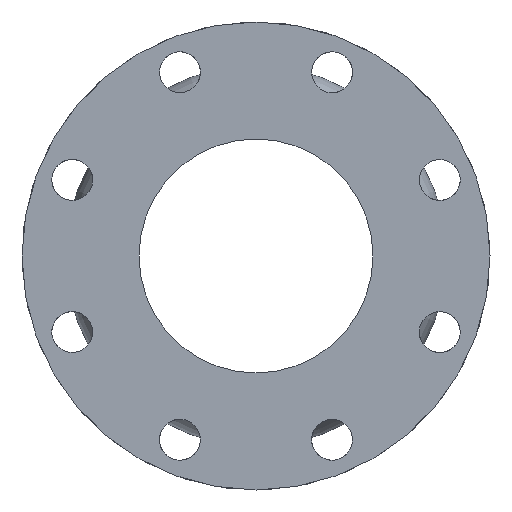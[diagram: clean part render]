
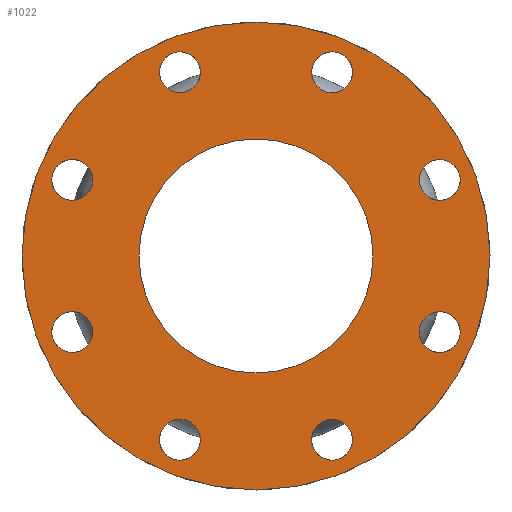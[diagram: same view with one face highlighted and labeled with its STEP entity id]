
A CAD part, left-side view. The second image highlights one B-rep face of the part: STEP entity #1022.
In plain terms, the highlighted planar face has unit normal (-1, 0, 0).
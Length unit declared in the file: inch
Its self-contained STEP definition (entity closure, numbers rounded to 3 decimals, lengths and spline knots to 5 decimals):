
#359=CARTESIAN_POINT('',(-3.,1.93576,-3.61713));
#360=VERTEX_POINT('',#359);
#361=CARTESIAN_POINT('',(-3.,1.6264,-3.92649));
#362=DIRECTION('',(1.0,0.0,0.0));
#363=DIRECTION('',(0.0,-0.707,-0.707));
#364=AXIS2_PLACEMENT_3D('',#361,#362,#363);
#365=CIRCLE('',#364,0.4375);
#366=EDGE_CURVE('',#360,#360,#365,.T.);
#387=CARTESIAN_POINT('',(-3.,-1.1889,-3.92649));
#388=VERTEX_POINT('',#387);
#389=CARTESIAN_POINT('',(-3.,-1.6264,-3.92649));
#390=DIRECTION('',(1.0,0.0,0.0));
#391=DIRECTION('',(0.0,-1.0,0.0));
#392=AXIS2_PLACEMENT_3D('',#389,#390,#391);
#393=CIRCLE('',#392,0.4375);
#394=EDGE_CURVE('',#388,#388,#393,.T.);
#415=CARTESIAN_POINT('',(-3.,-3.61713,-1.93576));
#416=VERTEX_POINT('',#415);
#417=CARTESIAN_POINT('',(-3.,-3.92649,-1.6264));
#418=DIRECTION('',(1.0,0.0,0.0));
#419=DIRECTION('',(0.0,-0.707,0.707));
#420=AXIS2_PLACEMENT_3D('',#417,#418,#419);
#421=CIRCLE('',#420,0.4375);
#422=EDGE_CURVE('',#416,#416,#421,.T.);
#443=CARTESIAN_POINT('',(-3.,-3.92649,1.1889));
#444=VERTEX_POINT('',#443);
#445=CARTESIAN_POINT('',(-3.,-3.92649,1.6264));
#446=DIRECTION('',(1.0,0.0,0.0));
#447=DIRECTION('',(0.0,0.0,1.0));
#448=AXIS2_PLACEMENT_3D('',#445,#446,#447);
#449=CIRCLE('',#448,0.4375);
#450=EDGE_CURVE('',#444,#444,#449,.T.);
#471=CARTESIAN_POINT('',(-3.,-1.93576,3.61713));
#472=VERTEX_POINT('',#471);
#473=CARTESIAN_POINT('',(-3.,-1.6264,3.92649));
#474=DIRECTION('',(1.0,0.0,0.0));
#475=DIRECTION('',(0.0,0.707,0.707));
#476=AXIS2_PLACEMENT_3D('',#473,#474,#475);
#477=CIRCLE('',#476,0.4375);
#478=EDGE_CURVE('',#472,#472,#477,.T.);
#499=CARTESIAN_POINT('',(-3.,1.1889,3.92649));
#500=VERTEX_POINT('',#499);
#501=CARTESIAN_POINT('',(-3.,1.6264,3.92649));
#502=DIRECTION('',(1.0,0.0,0.0));
#503=DIRECTION('',(0.0,1.0,0.0));
#504=AXIS2_PLACEMENT_3D('',#501,#502,#503);
#505=CIRCLE('',#504,0.4375);
#506=EDGE_CURVE('',#500,#500,#505,.T.);
#527=CARTESIAN_POINT('',(-3.,3.61713,1.93576));
#528=VERTEX_POINT('',#527);
#529=CARTESIAN_POINT('',(-3.,3.92649,1.6264));
#530=DIRECTION('',(1.0,0.0,0.0));
#531=DIRECTION('',(0.0,0.707,-0.707));
#532=AXIS2_PLACEMENT_3D('',#529,#530,#531);
#533=CIRCLE('',#532,0.4375);
#534=EDGE_CURVE('',#528,#528,#533,.T.);
#555=CARTESIAN_POINT('',(-3.,3.92649,-1.1889));
#556=VERTEX_POINT('',#555);
#557=CARTESIAN_POINT('',(-3.,3.92649,-1.6264));
#558=DIRECTION('',(1.0,0.0,0.0));
#559=DIRECTION('',(0.0,0.0,-1.0));
#560=AXIS2_PLACEMENT_3D('',#557,#558,#559);
#561=CIRCLE('',#560,0.4375);
#562=EDGE_CURVE('',#556,#556,#561,.T.);
#583=CARTESIAN_POINT('',(-3.,5.,0.0));
#584=VERTEX_POINT('',#583);
#585=CARTESIAN_POINT('',(-3.,0.0,0.0));
#586=DIRECTION('',(1.0,0.0,0.0));
#587=DIRECTION('',(0.0,1.0,0.0));
#588=AXIS2_PLACEMENT_3D('',#585,#586,#587);
#589=CIRCLE('',#588,5.);
#590=EDGE_CURVE('',#584,#584,#589,.T.);
#972=CARTESIAN_POINT('',(-3.,2.5,0.0));
#973=VERTEX_POINT('',#972);
#974=CARTESIAN_POINT('',(-3.,0.0,0.0));
#975=DIRECTION('',(1.0,0.0,0.0));
#976=DIRECTION('',(0.0,1.0,0.0));
#977=AXIS2_PLACEMENT_3D('',#974,#975,#976);
#978=CIRCLE('',#977,2.5);
#979=EDGE_CURVE('',#973,#973,#978,.T.);
#987=CARTESIAN_POINT('',(-3.,3.75,0.0));
#988=DIRECTION('',(-1.0,0.0,0.0));
#989=DIRECTION('',(0.0,0.0,1.0));
#990=AXIS2_PLACEMENT_3D('',#987,#988,#989);
#991=PLANE('',#990);
#992=ORIENTED_EDGE('',*,*,#590,.F.);
#993=EDGE_LOOP('',(#992));
#994=FACE_OUTER_BOUND('',#993,.T.);
#995=ORIENTED_EDGE('',*,*,#366,.T.);
#996=EDGE_LOOP('',(#995));
#997=FACE_BOUND('',#996,.T.);
#998=ORIENTED_EDGE('',*,*,#394,.T.);
#999=EDGE_LOOP('',(#998));
#1000=FACE_BOUND('',#999,.T.);
#1001=ORIENTED_EDGE('',*,*,#422,.T.);
#1002=EDGE_LOOP('',(#1001));
#1003=FACE_BOUND('',#1002,.T.);
#1004=ORIENTED_EDGE('',*,*,#450,.T.);
#1005=EDGE_LOOP('',(#1004));
#1006=FACE_BOUND('',#1005,.T.);
#1007=ORIENTED_EDGE('',*,*,#478,.T.);
#1008=EDGE_LOOP('',(#1007));
#1009=FACE_BOUND('',#1008,.T.);
#1010=ORIENTED_EDGE('',*,*,#506,.T.);
#1011=EDGE_LOOP('',(#1010));
#1012=FACE_BOUND('',#1011,.T.);
#1013=ORIENTED_EDGE('',*,*,#534,.T.);
#1014=EDGE_LOOP('',(#1013));
#1015=FACE_BOUND('',#1014,.T.);
#1016=ORIENTED_EDGE('',*,*,#562,.T.);
#1017=EDGE_LOOP('',(#1016));
#1018=FACE_BOUND('',#1017,.T.);
#1019=ORIENTED_EDGE('',*,*,#979,.T.);
#1020=EDGE_LOOP('',(#1019));
#1021=FACE_BOUND('',#1020,.T.);
#1022=ADVANCED_FACE('',(#994,#997,#1000,#1003,#1006,#1009,#1012,#1015,#1018,#1021),#991,.T.);
